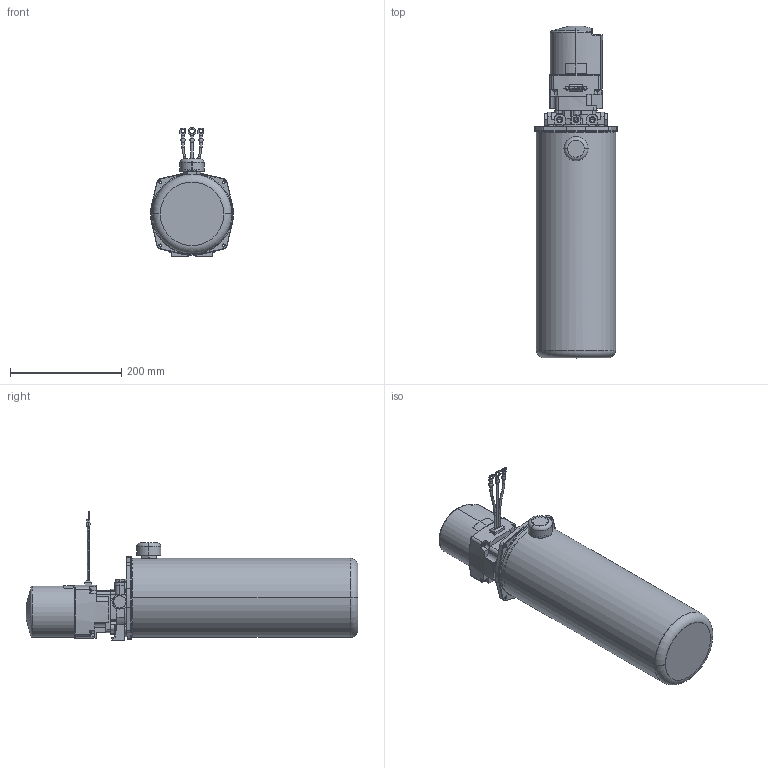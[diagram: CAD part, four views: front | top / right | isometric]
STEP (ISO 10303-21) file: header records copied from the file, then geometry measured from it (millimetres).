
FILE_DESCRIPTION((''),'2;1');
FILE_NAME('108-AM-BI-J_ASM_ASM','2013-05-02T',('da10877'),('OILDYNE'),'PRO/ENGINEER BY PARAMETRIC TECHNOLOGY CORPORATION, 2011490','PRO/ENGINEER BY PARAMETRIC TECHNOLOGY CORPORATION, 2011490','');
FILE_SCHEMA(('CONFIG_CONTROL_DESIGN'));
Length unit declared in the file: inch
Products named in the file (2): _108-AM-BI-J_ASM; 108-AM-BI-J_ASM_ASM
Assembly tree (1 placements, depth 2):
  108-AM-BI-J_ASM_ASM
    _108-AM-BI-J_ASM
Bounding box: 148.8 x 596.46 x 231.13 mm (x, y, z)
Volume: 1182632.6 mm3; surface area: 573621 mm2
Topology: 6 solids, 15 shells, 1179 faces, 3086 edges, 1958 vertices
Faces by surface type: plane 511, cylinder 413, cone 110, torus 101, bspline 38, sphere 6
Entity records: 38785 total; most frequent: CARTESIAN_POINT 9516, DIRECTION 6204, ORIENTED_EDGE 6106, EDGE_CURVE 3068, AXIS2_PLACEMENT_3D 2326, VERTEX_POINT 1958, VECTOR 1552, LINE 1552
